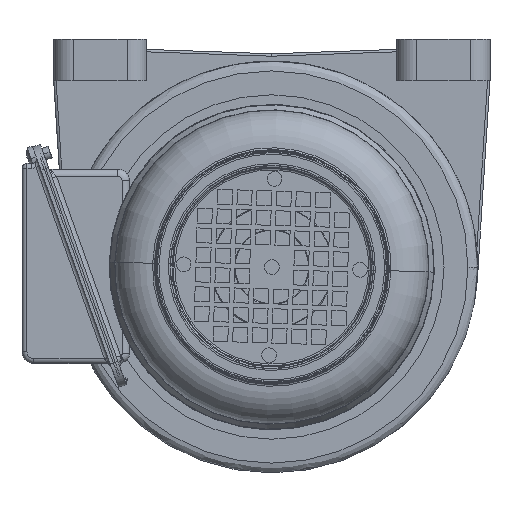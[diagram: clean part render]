
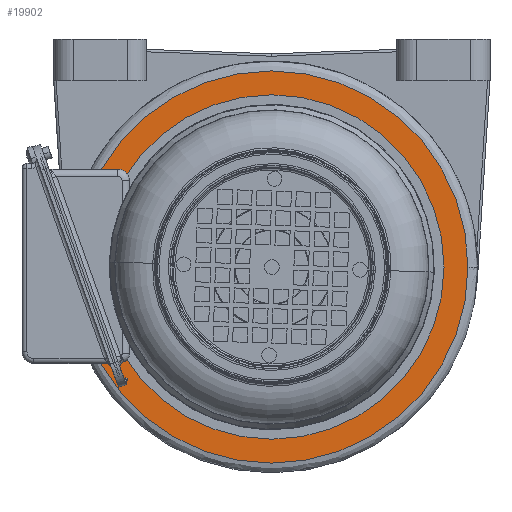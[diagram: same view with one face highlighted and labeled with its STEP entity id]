
A CAD part, front view. The second image highlights one B-rep face of the part: STEP entity #19902.
In plain terms, the highlighted planar face has unit normal (0, -1, 0).
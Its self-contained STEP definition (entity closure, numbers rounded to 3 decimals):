
#886 = EDGE_LOOP ( 'NONE', ( #12273, #16678 ) ) ;
#1292 = CARTESIAN_POINT ( 'NONE',  ( 178.77, 116.317, 0. ) ) ;
#1996 = DIRECTION ( 'NONE',  ( 0., -1., 0. ) ) ;
#2036 = DIRECTION ( 'NONE',  ( -1., 0., 0. ) ) ;
#3933 = DIRECTION ( 'NONE',  ( 0., -1., 0. ) ) ;
#3939 = EDGE_CURVE ( 'NONE', #20393, #28330, #23366, .T. ) ;
#4831 = CARTESIAN_POINT ( 'NONE',  ( 188.52, 116.317, 0. ) ) ;
#5173 = CARTESIAN_POINT ( 'NONE',  ( 108.52, 116.317, 0. ) ) ;
#5479 = CARTESIAN_POINT ( 'NONE',  ( 28.52, 116.317, 0. ) ) ;
#6839 = VERTEX_POINT ( 'NONE', #1292 ) ;
#7636 = AXIS2_PLACEMENT_3D ( 'NONE', #8013, #19110, #30278 ) ;
#7905 = FACE_OUTER_BOUND ( 'NONE', #23427, .T. ) ;
#8013 = CARTESIAN_POINT ( 'NONE',  ( 108.52, 116.317, 0. ) ) ;
#8099 = AXIS2_PLACEMENT_3D ( 'NONE', #15901, #27041, #2036 ) ;
#8492 = AXIS2_PLACEMENT_3D ( 'NONE', #5173, #16289, #27434 ) ;
#11043 = ORIENTED_EDGE ( 'NONE', *, *, #35084, .T. ) ;
#11157 = EDGE_CURVE ( 'NONE', #6839, #17627, #27358, .T. ) ;
#11640 = AXIS2_PLACEMENT_3D ( 'NONE', #28936, #3933, #15065 ) ;
#12273 = ORIENTED_EDGE ( 'NONE', *, *, #17198, .F. ) ;
#13145 = DIRECTION ( 'NONE',  ( -1., 0., 0. ) ) ;
#15065 = DIRECTION ( 'NONE',  ( -1., 0., 0. ) ) ;
#15513 = AXIS2_PLACEMENT_3D ( 'NONE', #27003, #1996, #13145 ) ;
#15901 = CARTESIAN_POINT ( 'NONE',  ( 108.52, 116.317, 0. ) ) ;
#15955 = ORIENTED_EDGE ( 'NONE', *, *, #3939, .T. ) ;
#16289 = DIRECTION ( 'NONE',  ( 0., -1., 0. ) ) ;
#16678 = ORIENTED_EDGE ( 'NONE', *, *, #11157, .F. ) ;
#17198 = EDGE_CURVE ( 'NONE', #17627, #6839, #31275, .T. ) ;
#17627 = VERTEX_POINT ( 'NONE', #23113 ) ;
#19009 = FACE_BOUND ( 'NONE', #886, .T. ) ;
#19110 = DIRECTION ( 'NONE',  ( 0., -1., 0. ) ) ;
#19902 = ADVANCED_FACE ( 'NONE', ( #7905, #19009 ), #30173, .T. ) ;
#20393 = VERTEX_POINT ( 'NONE', #5479 ) ;
#23113 = CARTESIAN_POINT ( 'NONE',  ( 38.27, 116.317, 0. ) ) ;
#23366 = CIRCLE ( 'NONE', #7636, 80. ) ;
#23427 = EDGE_LOOP ( 'NONE', ( #15955, #11043 ) ) ;
#23829 = CIRCLE ( 'NONE', #8099, 80. ) ;
#27003 = CARTESIAN_POINT ( 'NONE',  ( 108.52, 116.317, 0. ) ) ;
#27041 = DIRECTION ( 'NONE',  ( 0., -1., 0. ) ) ;
#27358 = CIRCLE ( 'NONE', #11640, 70.25 ) ;
#27434 = DIRECTION ( 'NONE',  ( 0., 0., 1. ) ) ;
#28330 = VERTEX_POINT ( 'NONE', #4831 ) ;
#28936 = CARTESIAN_POINT ( 'NONE',  ( 108.52, 116.317, 0. ) ) ;
#30173 = PLANE ( 'NONE',  #8492 ) ;
#30278 = DIRECTION ( 'NONE',  ( -1., 0., 0. ) ) ;
#31275 = CIRCLE ( 'NONE', #15513, 70.25 ) ;
#35084 = EDGE_CURVE ( 'NONE', #28330, #20393, #23829, .T. ) ;
